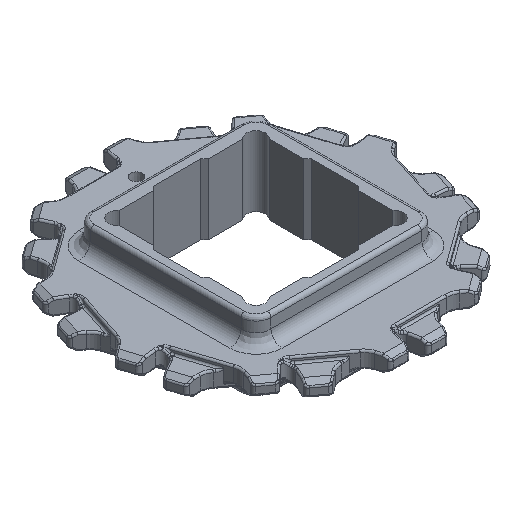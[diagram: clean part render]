
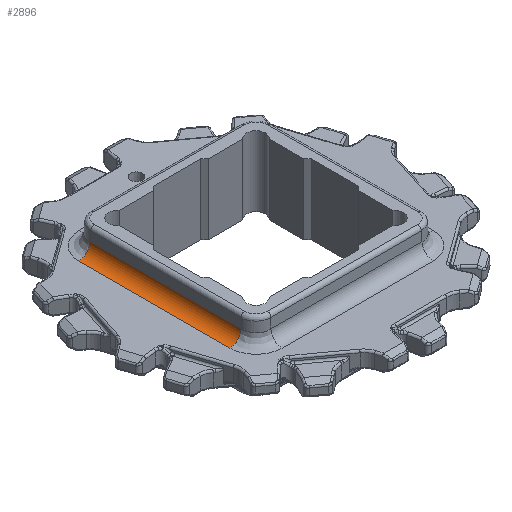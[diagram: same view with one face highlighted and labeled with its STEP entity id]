
A CAD part, isometric view. The second image highlights one B-rep face of the part: STEP entity #2896.
In plain terms, the highlighted cylindrical face has radius 3 mm (diameter 6 mm), a partial arc.
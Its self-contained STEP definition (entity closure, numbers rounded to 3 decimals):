
#909=CYLINDRICAL_SURFACE('',#18890,3.);
#1856=FACE_OUTER_BOUND('',#7323,.T.);
#2896=ADVANCED_FACE('',(#1856),#909,.F.);
#3783=LINE('',#24649,#4729);
#3791=LINE('',#24675,#4737);
#4729=VECTOR('',#19223,1.);
#4737=VECTOR('',#19243,1.);
#6311=CIRCLE('',#18888,3.);
#6312=CIRCLE('',#18889,3.);
#7323=EDGE_LOOP('',(#12078,#12079,#12080,#12081));
#12078=ORIENTED_EDGE('',*,*,#16435,.T.);
#12079=ORIENTED_EDGE('',*,*,#14284,.F.);
#12080=ORIENTED_EDGE('',*,*,#16436,.F.);
#12081=ORIENTED_EDGE('',*,*,#14296,.F.);
#12759=VERTEX_POINT('',#24643);
#12762=VERTEX_POINT('',#24648);
#12774=VERTEX_POINT('',#24674);
#12775=VERTEX_POINT('',#24676);
#14284=EDGE_CURVE('',#12762,#12759,#3783,.T.);
#14296=EDGE_CURVE('',#12774,#12775,#3791,.T.);
#16435=EDGE_CURVE('',#12774,#12759,#6311,.T.);
#16436=EDGE_CURVE('',#12775,#12762,#6312,.T.);
#18888=AXIS2_PLACEMENT_3D('',#33610,#23594,#23595);
#18889=AXIS2_PLACEMENT_3D('',#33629,#23596,#23597);
#18890=AXIS2_PLACEMENT_3D('',#33630,#23598,#23599);
#19223=DIRECTION('',(0.,-1.,0.));
#19243=DIRECTION('',(0.,1.,0.));
#23594=DIRECTION('',(0.,-1.,0.));
#23595=DIRECTION('',(1.,0.,0.));
#23596=DIRECTION('',(0.,-1.,0.));
#23597=DIRECTION('',(1.,0.,0.));
#23598=DIRECTION('',(0.,-1.,0.));
#23599=DIRECTION('',(1.,0.,0.));
#24643=CARTESIAN_POINT('',(-24.229,129.769,5.845));
#24648=CARTESIAN_POINT('',(-24.229,170.231,5.845));
#24649=CARTESIAN_POINT('',(-24.229,150.,5.845));
#24674=CARTESIAN_POINT('',(-27.227,129.769,2.95));
#24675=CARTESIAN_POINT('',(-27.227,180.773,2.95));
#24676=CARTESIAN_POINT('',(-27.227,170.231,2.95));
#33610=CARTESIAN_POINT('',(-27.227,129.769,5.95));
#33629=CARTESIAN_POINT('',(-27.227,170.231,5.95));
#33630=CARTESIAN_POINT('',(-27.227,150.,5.95));
